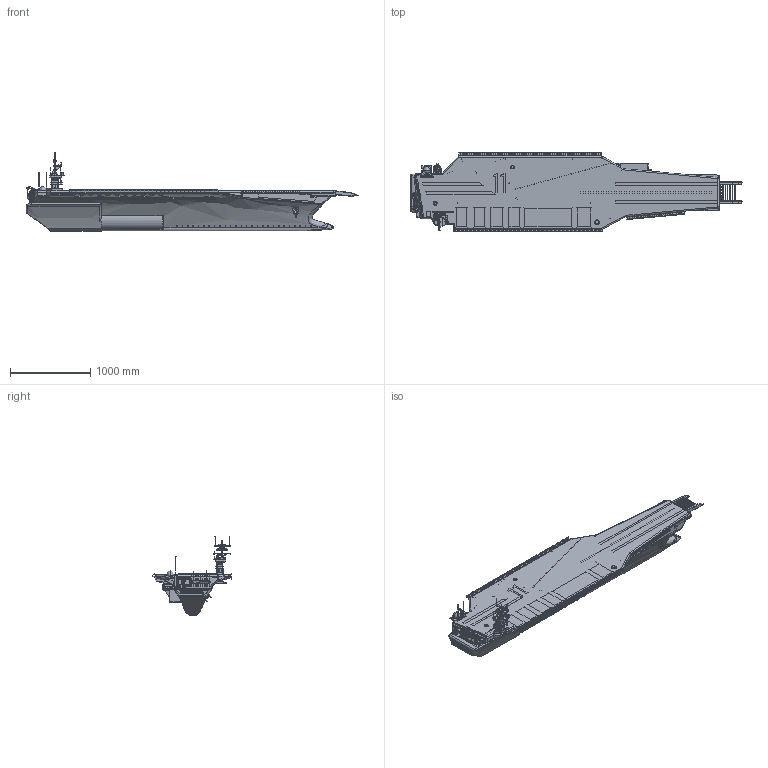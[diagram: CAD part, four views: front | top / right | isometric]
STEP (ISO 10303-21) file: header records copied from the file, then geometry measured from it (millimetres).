
FILE_DESCRIPTION(('CATIA V5 STEP Exchange'),'2;1');
FILE_NAME('C:\Users\ORANA\Desktop\ship.stp','2014-11-29T18:48:24+00:00',('none'),('none'),'CATIA Version 5 Release 21 GA (IN-10)','CATIA V5 STEP AP203','none');
FILE_SCHEMA(('CONFIG_CONTROL_DESIGN'));
Products named in the file (1): Part1
Bounding box: 4143.58 x 994.22 x 979.31 mm (x, y, z)
Volume: 686753131.9 mm3; surface area: 18026403 mm2
Topology: 1116 solids, 1116 shells, 7705 faces, 14744 edges, 9435 vertices
Faces by surface type: plane 3761, cylinder 2399, extrusion 991, bspline 179, revolution 144, torus 143, sphere 83, cone 5
Entity records: 214672 total; most frequent: CARTESIAN_POINT 78760, ORIENTED_EDGE 29320, DIRECTION 19610, EDGE_CURVE 14660, VERTEX_POINT 9435, AXIS2_PLACEMENT_3D 8528, EDGE_LOOP 8093, VECTOR 8009
